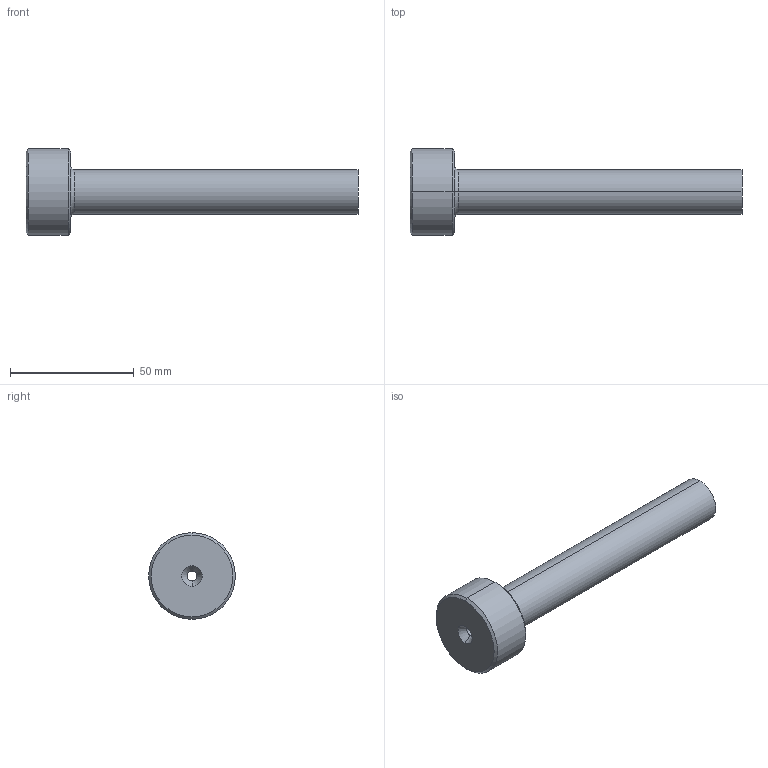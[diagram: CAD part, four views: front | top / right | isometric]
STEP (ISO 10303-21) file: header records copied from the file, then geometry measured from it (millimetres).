
FILE_DESCRIPTION (( 'STEP AP214' ), '1' );
FILE_NAME ('BRB7-116.STEP', '2020-01-29T09:58:25', ( 'August' ), ( '' ), 'SwSTEP 2.0', 'SolidWorks 2018', '' );
FILE_SCHEMA (( 'AUTOMOTIVE_DESIGN' ));
Length unit declared in the file: millimetre
Products named in the file (1): BRB7-116
Bounding box: 134 x 35 x 35 mm (x, y, z)
Volume: 42420.2 mm3; surface area: 12843.5 mm2
Topology: 1 solids, 1 shells, 17 faces, 34 edges, 20 vertices
Faces by surface type: cone 8, cylinder 4, plane 3, torus 2
Entity records: 484 total; most frequent: DIRECTION 92, CARTESIAN_POINT 72, ORIENTED_EDGE 68, AXIS2_PLACEMENT_3D 40, EDGE_CURVE 34, CIRCLE 22, EDGE_LOOP 20, VERTEX_POINT 20
